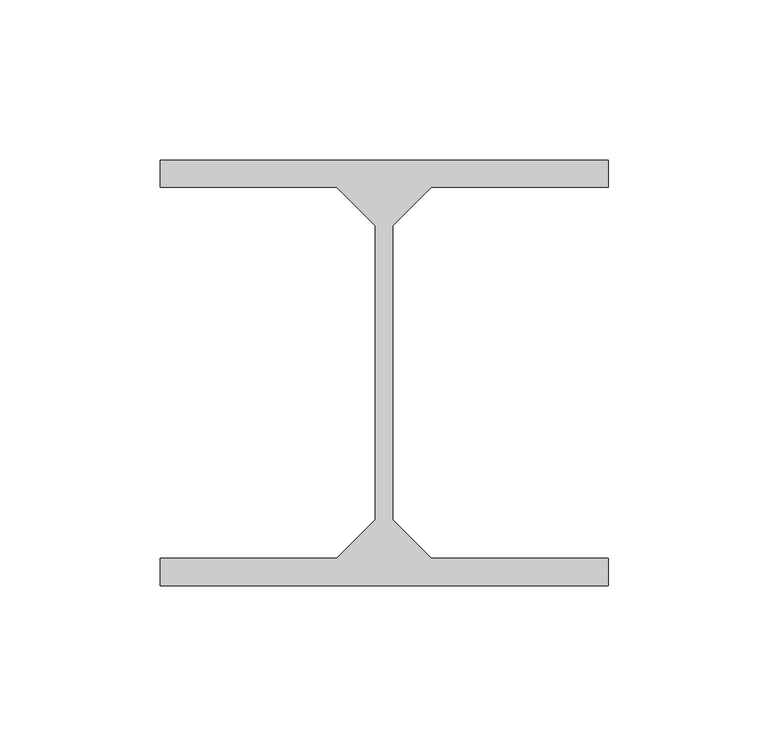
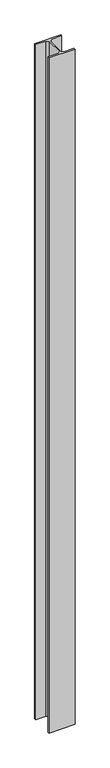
"""IFC4 building model written with IfcOpenShell, lengths in millimetres: beam geometry, Potelet 49226 : Potelet 49226."""

from ifc_helpers import new_model, si_unit, frame, origin, place, context, project, spatial, polyline, outline, extrude, source, transform, mapped, element, save


def beam_2f515bfb(model_context):
    return source(origin(), model_context, "Body", "SweptSolid", [
        extrude(outline(polyline([(15249.9999999, -23528.0), (15249.9999999, -23519.5), (15389.9999999, -23519.5), (15389.9999999, -23528.0), (15334.7499999, -23528.0), (15322.7499999, -23540.0), (15322.7499999, -23632.0), (15334.7499999, -23644.0), (15389.9999999, -23644.0), (15389.9999999, -23652.5), (15249.9999999, -23652.5), (15249.9999999, -23644.0), (15305.2499999, -23644.0), (15317.2499999, -23632.0), (15317.2499999, -23540.0), (15305.2499999, -23528.0), (15249.9999999, -23528.0)])), frame((0.0, 0.0, 7410.0), z_axis=(0.0, 0.0, 1.0), x_axis=(1.0, 0.0, 0.0)), (0.0, 0.0, 1.0), 3825.9485543),
    ])


if __name__ == "__main__":
    model = new_model("IFC4")
    model_context = context("Model", 3, world=origin())
    ifc_project = project(units=[si_unit("LENGTHUNIT", "METRE", prefix="MILLI")], contexts=[model_context])
    site = spatial("IfcSite", under=ifc_project)
    building = spatial("IfcBuilding", under=site)
    placement = place(None, origin())
    beam_shape = beam_2f515bfb(model_context)
    element("IfcBeam", 1, ObjectType="Potelet 49226 : Potelet 49226", at=placement, inside=building, context=model_context, shape_type="MappedRepresentation", body=[
        mapped(beam_shape, transform((0.0, 0.0, 0.0), x_axis=(1.0, 0.0, 0.0), y_axis=(0.0, 1.0, 0.0), z_axis=(0.0, 0.0, 1.0))),
    ])
    save(model, "model.ifc")
